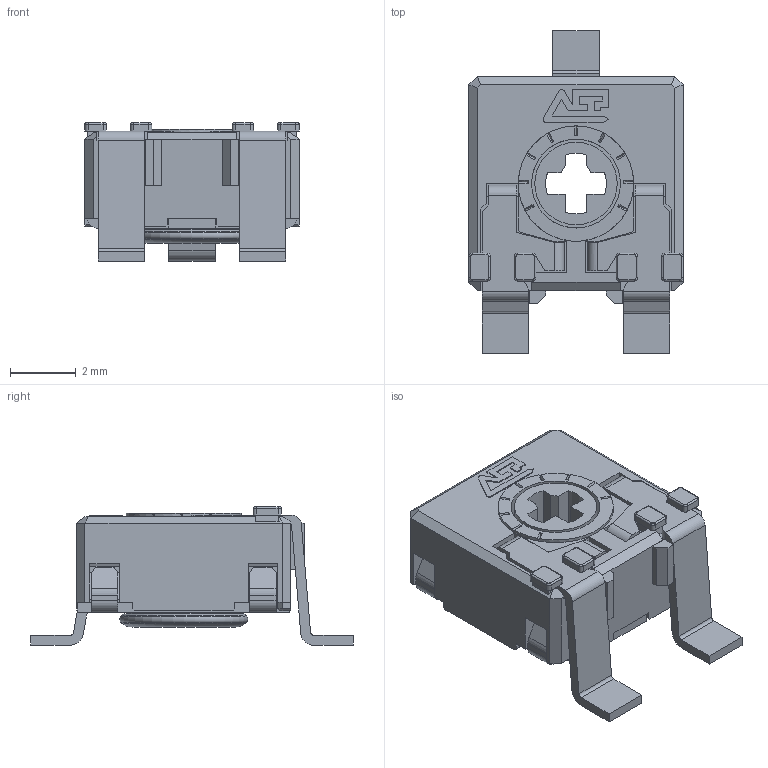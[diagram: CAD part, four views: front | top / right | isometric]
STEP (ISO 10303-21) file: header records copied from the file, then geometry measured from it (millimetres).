
FILE_DESCRIPTION(/* description */ (''),/* implementation_level */ '2;1');
FILE_NAME(/* name */ '\\SERVERACP\intercambio\Ignacio Santa Cecilia\Nueva WEB 2025\CA6\CA6XVSMD.stp',/* time_stamp */ '2025-06-05T12:25:03+02:00',/* author */ ('CEM'),/* organization */ (''),/* preprocessor_version */ 'ST-DEVELOPER v17',/* originating_system */ 'Autodesk Inventor 2018',/* authorisation */ '');
FILE_SCHEMA (('AUTOMOTIVE_DESIGN { 1 0 10303 214 3 1 1 }'));
Length unit declared in the file: millimetre
Products named in the file (1): CARCASA CA6
Bounding box: 6.5 x 9.8 x 4.2 mm (x, y, z)
Volume: 90.8 mm3; surface area: 389.5 mm2
Topology: 1 solids, 1 shells, 522 faces, 1469 edges, 945 vertices
Faces by surface type: plane 393, cylinder 90, cone 17, bspline 16, torus 6
Full cylindrical faces by diameter (mm): 2.5 x1, 2.7 x1, 2.9 x1, 3.1 x1, 3.5 x1
Entity records: 16931 total; most frequent: CARTESIAN_POINT 3121, ORIENTED_EDGE 2938, DIRECTION 2746, EDGE_CURVE 1469, LINE 1150, VECTOR 1150, VERTEX_POINT 945, AXIS2_PLACEMENT_3D 798
